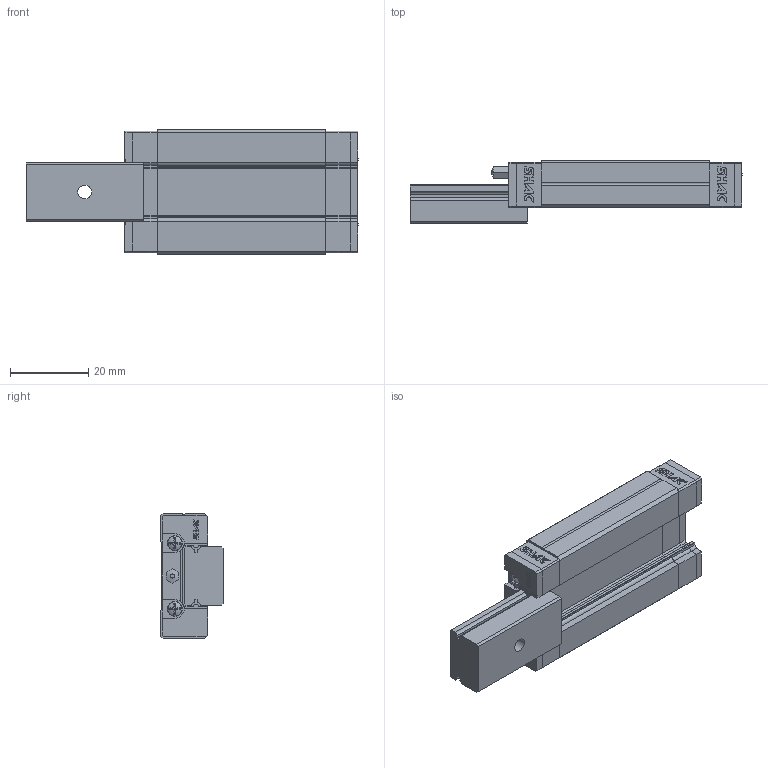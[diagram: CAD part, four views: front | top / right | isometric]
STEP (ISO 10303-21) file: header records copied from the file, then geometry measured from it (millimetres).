
FILE_DESCRIPTION( ( 'STEP AP214' ), '1' );
FILE_NAME( 'F:/品牌/SHAC 台湾鼎翰传动科技有限公司/3D滑块/GMN15H1R30ZFC+U_-15_15_1_.stp', '2025-04-21T22:55:55', ( 'License CC BY-ND 4.0' ), ( 'CADENAS' ), ' ', 'PARTsolutions', ' ' );
FILE_SCHEMA( ( 'AUTOMOTIVE_DESIGN { 1 0 10303 214 1 1 1 1 }' ) );
Length unit declared in the file: millimetre
Products named in the file (6): GMN15H1R30ZFC+U/-15/15(1); _GMN15R30-15/15(1)_R; _GMN15H_S; _GMN15_C; _GMN15_P; _GMN15_N
Assembly tree (7 placements, depth 2):
  GMN15H1R30ZFC+U/-15/15(1)
    _GMN15R30-15/15(1)_R
    _GMN15H_S
    _GMN15_C  x2
    _GMN15_P  x2
    _GMN15_N
Bounding box: 84.77 x 16 x 32 mm (x, y, z)
Volume: 21171.4 mm3; surface area: 11204.4 mm2
Topology: 7 solids, 7 shells, 614 faces, 1698 edges, 1127 vertices
Faces by surface type: plane 490, cylinder 106, cone 9, torus 5, sphere 4
Full cylindrical faces by diameter (mm): 1.05 x1, 2.459 x6, 3.5 x1, 3.84 x4, 6 x1
Entity records: 13877 total; most frequent: CARTESIAN_POINT 1959, ORIENTED_EDGE 1872, DIRECTION 1819, EDGE_CURVE 936, LINE 761, VECTOR 761, VERTEX_POINT 637, AXIS2_PLACEMENT_3D 529
